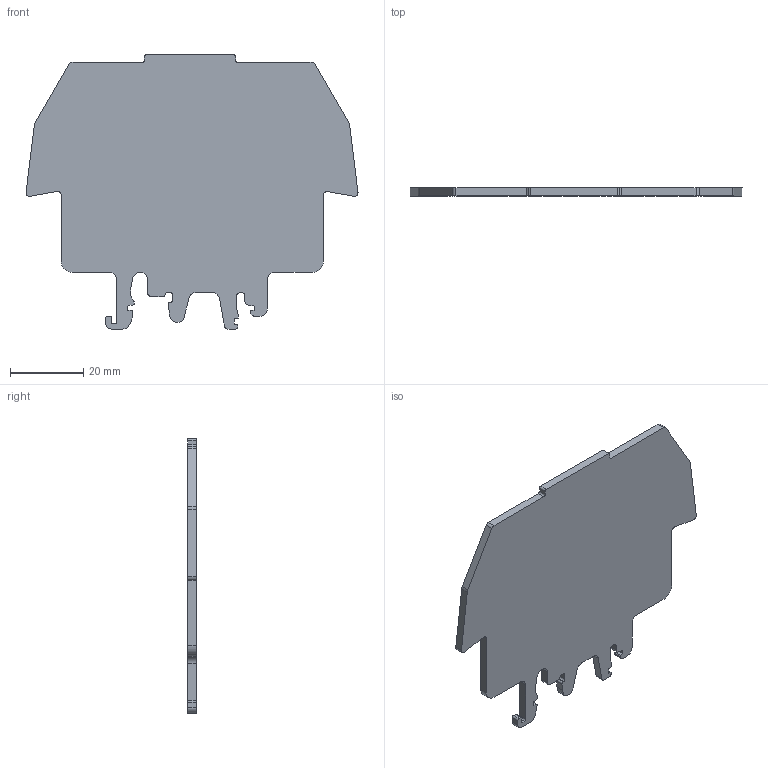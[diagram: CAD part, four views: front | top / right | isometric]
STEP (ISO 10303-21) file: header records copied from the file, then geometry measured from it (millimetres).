
FILE_DESCRIPTION( ('This file contains a STEP AP42 implementation' ,'as created by ZW3D STEP Interface translator.') ,'2;1' );
FILE_NAME( 'PAR 3-TU.stp' ,'24 726.115237', (''), ('ZWCAD Software Co.'), 'Version 1.0', 'ZW3D to STEP translator', '' );
FILE_SCHEMA(('AUTOMOTIVE_DESIGN { 1 0 10303 214 1 1 1 1 }'));
Length unit declared in the file: millimetre
Products named in the file (2): 0; RAP
Bounding box: 90.84 x 2.2 x 75 mm (x, y, z)
Volume: 10872.4 mm3; surface area: 10709 mm2
Topology: 1 solids, 1 shells, 106 faces, 312 edges, 208 vertices
Faces by surface type: plane 58, cylinder 48
Entity records: 3688 total; most frequent: CARTESIAN_POINT 627, ORIENTED_EDGE 624, DIRECTION 622, EDGE_CURVE 312, VECTOR 216, LINE 216, VERTEX_POINT 208, AXIS2_PLACEMENT_3D 203
